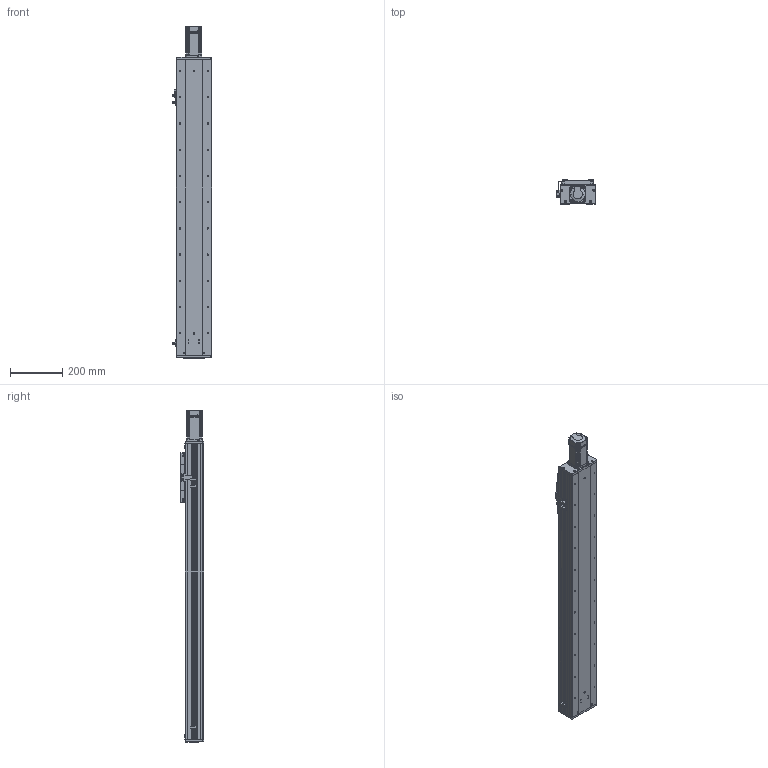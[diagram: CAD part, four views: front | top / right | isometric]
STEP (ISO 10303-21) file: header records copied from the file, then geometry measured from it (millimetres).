
FILE_DESCRIPTION (( 'STEP AP203' ), '1' );
FILE_NAME ('RY140F-L2020-300-MK.SLDASM_850.step', '2021-03-02T06:24:16', ( '盈信电脑' ), ( '东莞市道滘镇水果街19号' ), 'SwSTEP 2.0', 'SolidWorks 2012', '' );
FILE_SCHEMA (( 'CONFIG_CONTROL_DESIGN' ));
Length unit declared in the file: millimetre
Products named in the file (18): RY140F-L2020-300-MK.SLDASM_850; 滅袉蝶18-10; 侐源滅袉蝶; RY140F-672覜茼んえ; RY140F-詩湍揤え; 覜茼ん672; 侂狟400W侜督萇儂; RY140F-直连前盖板(铝件）; RY140F-后盖板(铝件）; RY140F-直连型材铝滑块(16丝杆); 15; RY100F-詩湍揤踡謫; RY140F-詩湍幗謫粣; RY140F-滅鳥奻裔; RY140F-300-MK眻蟀倰第奻裔啣_850; RY140F-300-MK眻蟀倰第菁釱_850; RY140F-直连型材铝滑块连接座; RY140F-300-MK眻蟀詩湍_850
Assembly tree (22 placements, depth 3):
  RY140F-L2020-300-MK.SLDASM_850
    RY140F-300-MK眻蟀倰第菁釱_850
    RY140F-300-MK眻蟀倰第奻裔啣_850  x2
    RY140F-300-MK眻蟀詩湍_850
    RY140F-直连型材铝滑块连接座
    RY140F-滅鳥奻裔
    RY140F-詩湍幗謫粣
    RY100F-詩湍揤踡謫
    RY140F-直连型材铝滑块(16丝杆)
    RY140F-直连前盖板(铝件）
    RY140F-后盖板(铝件）
    侂狟400W侜督萇儂
      15
    覜茼ん672  x3
    RY140F-672覜茼んえ
    RY140F-詩湍揤え  x2
    滅袉蝶18-10
    侐源滅袉蝶  x2
Bounding box: 148.7 x 91 x 1265.5 mm (x, y, z)
Volume: 4307477.1 mm3; surface area: 1491802.7 mm2
Topology: 21 solids, 21 shells, 1980 faces, 5445 edges, 3484 vertices
Faces by surface type: cylinder 906, plane 854, cone 198, bspline 18, torus 4
Entity records: 57394 total; most frequent: CARTESIAN_POINT 11489, DIRECTION 9380, ORIENTED_EDGE 8998, EDGE_CURVE 4499, AXIS2_PLACEMENT_3D 3363, VERTEX_POINT 2952, LINE 2654, VECTOR 2654
